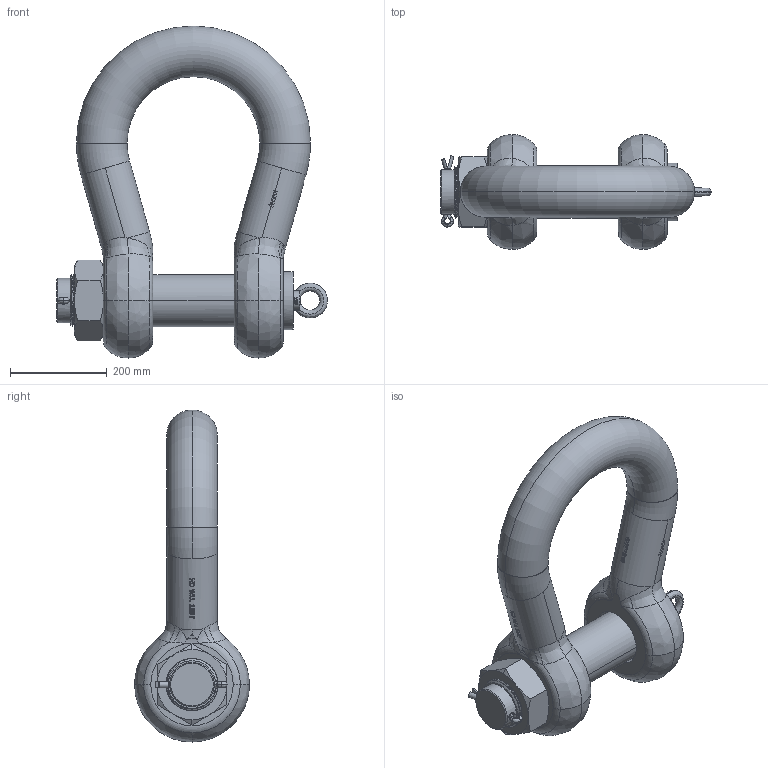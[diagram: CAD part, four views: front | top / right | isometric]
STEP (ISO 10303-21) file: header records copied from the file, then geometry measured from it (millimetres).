
FILE_DESCRIPTION(('STEP AP214'),'1');
FILE_NAME('hdgphm0150.stp','2017-05-16T11:42:18',('TraceParts'),('TraceParts S.A.'),'Spatial InterOp 3D',' ',' ');
FILE_SCHEMA(('automotive_design'));
Length unit declared in the file: millimetre
Products named in the file (5): HDGPHM0150|HDGPHM0150_1#HDGPHM0150_1;MANIFOLD_SOLID_BREP #20482; HDGPHM0150|HDGPHM0150_1#HDGPHM0150_2;MANIFOLD_SOLID_BREP #36247; hdgphm0150_3; hdgphm0150_4; hdgphm0150_5
Bounding box: 561 x 238 x 688 mm (x, y, z)
Volume: 19896728.3 mm3; surface area: 944641.2 mm2
Topology: 5 solids, 5 shells, 1224 faces, 4465 edges, 3299 vertices
Faces by surface type: bspline 439, plane 412, cylinder 309, torus 38, cone 26
Entity records: 93416 total; most frequent: CARTESIAN_POINT 52585, ORIENTED_EDGE 8926, EDGE_CURVE 4463, VERTEX_POINT 3299, B_SPLINE_CURVE_WITH_KNOTS 3192, DIRECTION 2898, EDGE_LOOP 1284, STYLED_ITEM 1229
